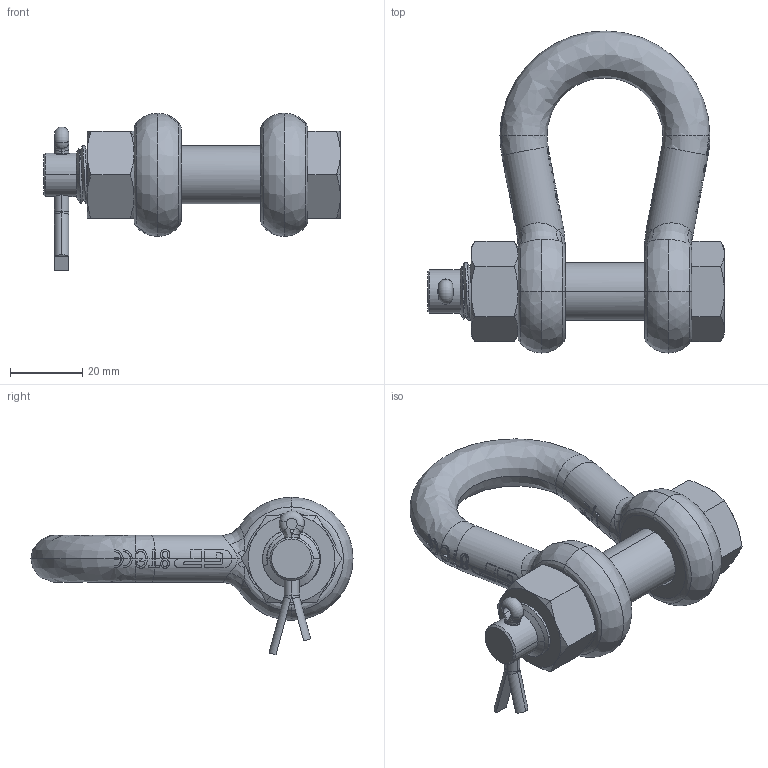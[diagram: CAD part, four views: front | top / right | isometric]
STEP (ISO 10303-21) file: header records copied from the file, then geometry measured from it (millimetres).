
FILE_DESCRIPTION (( 'STEP AP203' ), '1' );
FILE_NAME ('SUGHMB13.STEP', '2009-08-26T14:01:42', ( '.' ), ( '.' ), 'SwSTEP 2.0', 'SolidWorks 2009', '' );
FILE_SCHEMA (( 'CONFIG_CONTROL_DESIGN' ));
Length unit declared in the file: millimetre
Products named in the file (5): 3,3_1; SUGHMB13; 3,3; 3,3_2; 3,3_3
Assembly tree (4 placements, depth 2):
  SUGHMB13
    3,3_3
    3,3
    3,3_2
    3,3_1
Bounding box: 82 x 88.99 x 43.49 mm (x, y, z)
Volume: 53942.1 mm3; surface area: 20179.8 mm2
Topology: 4 solids, 4 shells, 743 faces, 2084 edges, 1353 vertices
Faces by surface type: bspline 329, plane 260, cylinder 121, cone 28, torus 5
Entity records: 37620 total; most frequent: CARTESIAN_POINT 21157, ORIENTED_EDGE 4140, DIRECTION 2087, EDGE_CURVE 2070, VERTEX_POINT 1353, VECTOR 849, LINE 849, B_SPLINE_CURVE_WITH_KNOTS 824
